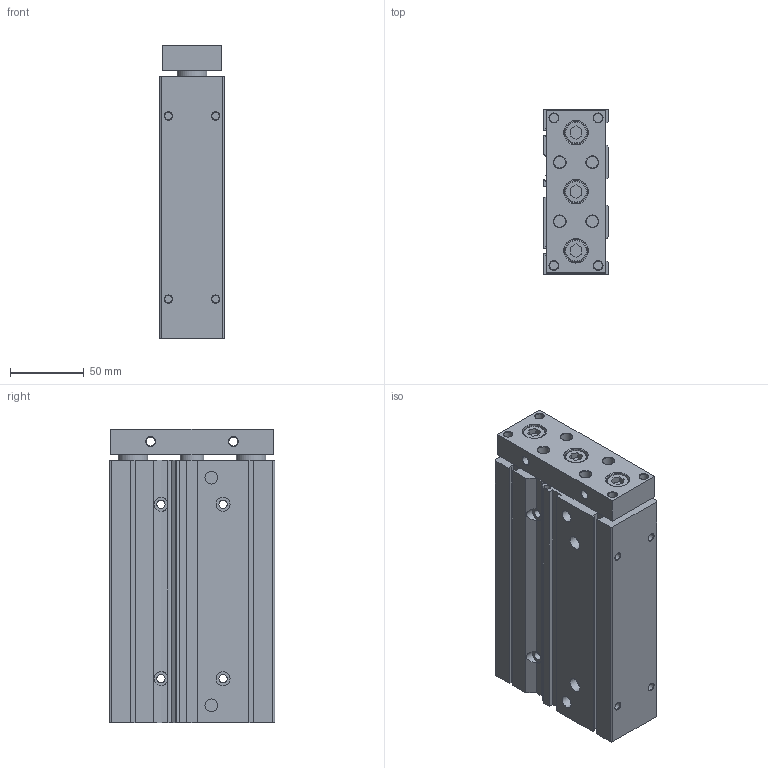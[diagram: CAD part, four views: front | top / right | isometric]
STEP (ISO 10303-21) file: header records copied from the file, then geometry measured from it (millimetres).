
FILE_DESCRIPTION((''),'2;1');
FILE_NAME('Z:\3D電子目錄\氣缸\TB(U)\TB(U)32\TB(U)32\TB32x125.stp','2011-09-22T10:54:24',('admin'),(''),'Autodesk Inventor 2012','Autodesk Inventor 2012','');
FILE_SCHEMA(('AUTOMOTIVE_DESIGN { 1 0 10303 214 1 1 1 1 }'));
Length unit declared in the file: millimetre
Products named in the file (1): TB32X125
Bounding box: 44 x 112 x 199 mm (x, y, z)
Volume: 885411.9 mm3; surface area: 101663.6 mm2
Topology: 1 solids, 1 shells, 206 faces, 462 edges, 294 vertices
Faces by surface type: plane 110, cylinder 56, cone 37, torus 3
Full cylindrical faces by diameter (mm): 5 x8, 5.5 x4, 6 x10, 8 x4, 8.5 x2, 9.5 x8, 15 x3, 16 x4, 20 x4, 28 x2, 34 x1
Entity records: 5348 total; most frequent: DIRECTION 944, CARTESIAN_POINT 873, ORIENTED_EDGE 744, EDGE_CURVE 372, AXIS2_PLACEMENT_3D 365, EDGE_LOOP 364, VERTEX_POINT 294, VECTOR 214
